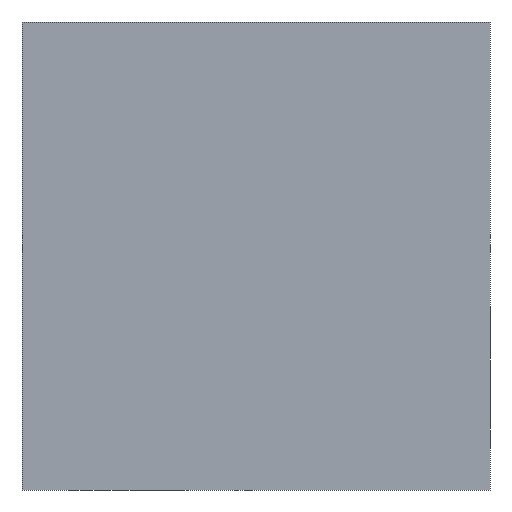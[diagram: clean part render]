
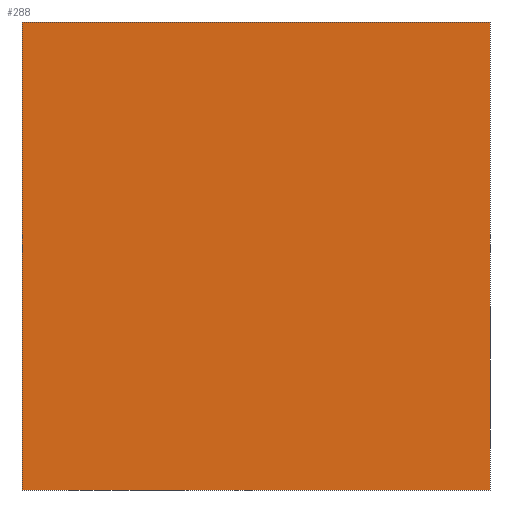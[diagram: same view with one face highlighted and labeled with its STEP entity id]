
A CAD part, front view. The second image highlights one B-rep face of the part: STEP entity #288.
In plain terms, the highlighted planar face has unit normal (0, -1, 0).
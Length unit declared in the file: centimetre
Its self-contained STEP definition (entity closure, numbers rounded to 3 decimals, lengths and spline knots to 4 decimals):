
#9 = VECTOR ( 'NONE', #387, 100. ) ;
#20 = LINE ( 'NONE', #173, #279 ) ;
#27 = CARTESIAN_POINT ( 'NONE',  ( 1000., 0., 1000. ) ) ;
#31 = ORIENTED_EDGE ( 'NONE', *, *, #168, .F. ) ;
#49 = DIRECTION ( 'NONE',  ( 1., 0., 0. ) ) ;
#70 = CARTESIAN_POINT ( 'NONE',  ( 0., 0., 1000. ) ) ;
#153 = VERTEX_POINT ( 'NONE', #414 ) ;
#166 = CARTESIAN_POINT ( 'NONE',  ( 0., 0., 1000. ) ) ;
#168 = EDGE_CURVE ( 'NONE', #462, #153, #194, .T. ) ;
#173 = CARTESIAN_POINT ( 'NONE',  ( 0., 0., 0. ) ) ;
#178 = DIRECTION ( 'NONE',  ( 0., 1., 0. ) ) ;
#185 = VECTOR ( 'NONE', #317, 100. ) ;
#190 = VERTEX_POINT ( 'NONE', #345 ) ;
#194 = LINE ( 'NONE', #166, #417 ) ;
#207 = CARTESIAN_POINT ( 'NONE',  ( 0., 0., 1000. ) ) ;
#208 = ORIENTED_EDGE ( 'NONE', *, *, #424, .F. ) ;
#209 = CARTESIAN_POINT ( 'NONE',  ( 0., 0., 0. ) ) ;
#220 = AXIS2_PLACEMENT_3D ( 'NONE', #70, #178, #351 ) ;
#246 = PLANE ( 'NONE',  #220 ) ;
#266 = ORIENTED_EDGE ( 'NONE', *, *, #293, .T. ) ;
#279 = VECTOR ( 'NONE', #316, 100. ) ;
#288 = ADVANCED_FACE ( 'NONE', ( #385 ), #246, .F. ) ;
#293 = EDGE_CURVE ( 'NONE', #462, #357, #320, .T. ) ;
#309 = LINE ( 'NONE', #27, #185 ) ;
#316 = DIRECTION ( 'NONE',  ( 1., 0., 0. ) ) ;
#317 = DIRECTION ( 'NONE',  ( 0., 0., -1. ) ) ;
#320 = LINE ( 'NONE', #207, #9 ) ;
#345 = CARTESIAN_POINT ( 'NONE',  ( 1000., 0., 0. ) ) ;
#351 = DIRECTION ( 'NONE',  ( 0., 0., 1. ) ) ;
#352 = ORIENTED_EDGE ( 'NONE', *, *, #361, .T. ) ;
#357 = VERTEX_POINT ( 'NONE', #209 ) ;
#361 = EDGE_CURVE ( 'NONE', #357, #190, #20, .T. ) ;
#385 = FACE_OUTER_BOUND ( 'NONE', #478, .T. ) ;
#387 = DIRECTION ( 'NONE',  ( 0., 0., -1. ) ) ;
#414 = CARTESIAN_POINT ( 'NONE',  ( 1000., 0., 1000. ) ) ;
#417 = VECTOR ( 'NONE', #49, 100. ) ;
#424 = EDGE_CURVE ( 'NONE', #153, #190, #309, .T. ) ;
#462 = VERTEX_POINT ( 'NONE', #477 ) ;
#477 = CARTESIAN_POINT ( 'NONE',  ( 0., 0., 1000. ) ) ;
#478 = EDGE_LOOP ( 'NONE', ( #352, #208, #31, #266 ) ) ;
